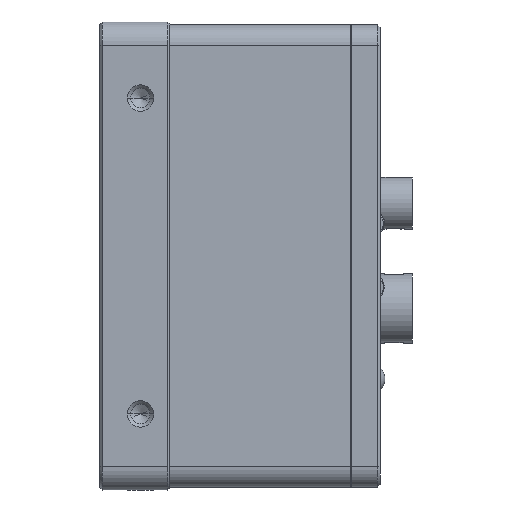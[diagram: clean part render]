
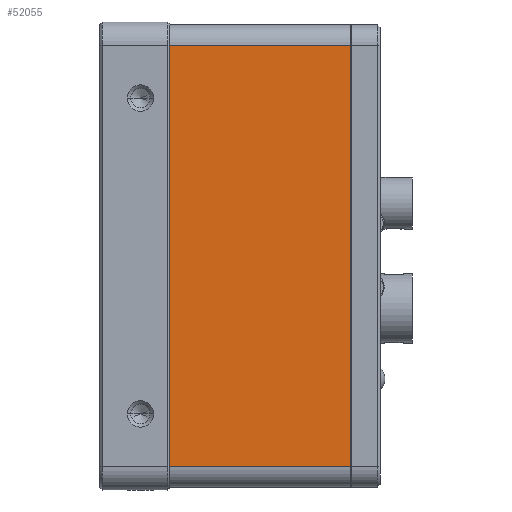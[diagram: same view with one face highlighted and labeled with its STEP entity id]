
A CAD part, left-side view. The second image highlights one B-rep face of the part: STEP entity #52055.
In plain terms, the highlighted planar face has unit normal (-1, 0, 0).
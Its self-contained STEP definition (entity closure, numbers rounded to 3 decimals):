
#3633=DIRECTION('',(0.,0.,-1.));
#3634=VECTOR('',#3633,72.);
#3635=CARTESIAN_POINT('',(-39.5,-12.,36.));
#3636=LINE('',#3635,#3634);
#4430=DIRECTION('',(0.,1.,0.));
#4431=VECTOR('',#4430,30.97);
#4432=CARTESIAN_POINT('',(-39.5,-42.97,36.));
#4433=LINE('',#4432,#4431);
#4437=DIRECTION('',(0.,0.,-1.));
#4438=VECTOR('',#4437,72.);
#4439=CARTESIAN_POINT('',(-39.5,-42.97,36.));
#4440=LINE('',#4439,#4438);
#4444=DIRECTION('',(0.,-1.,0.));
#4445=VECTOR('',#4444,30.97);
#4446=CARTESIAN_POINT('',(-39.5,-12.,-36.));
#4447=LINE('',#4446,#4445);
#42404=CARTESIAN_POINT('',(-39.5,-42.97,36.));
#42405=CARTESIAN_POINT('',(-39.5,-42.97,-36.));
#42406=VERTEX_POINT('',#42404);
#42407=VERTEX_POINT('',#42405);
#42420=CARTESIAN_POINT('',(-39.5,-12.,36.));
#42421=CARTESIAN_POINT('',(-39.5,-12.,-36.));
#42422=VERTEX_POINT('',#42420);
#42423=VERTEX_POINT('',#42421);
#52041=CARTESIAN_POINT('',(-39.5,0.,0.));
#52042=DIRECTION('',(1.,0.,0.));
#52043=DIRECTION('',(0.,-1.,0.));
#52044=AXIS2_PLACEMENT_3D('',#52041,#52042,#52043);
#52045=PLANE('',#52044);
#52046=ORIENTED_EDGE('',*,*,#50842,.F.);
#52048=ORIENTED_EDGE('',*,*,#52047,.F.);
#52050=ORIENTED_EDGE('',*,*,#52049,.T.);
#52052=ORIENTED_EDGE('',*,*,#52051,.F.);
#52053=EDGE_LOOP('',(#52046,#52048,#52050,#52052));
#52054=FACE_OUTER_BOUND('',#52053,.F.);
#52055=ADVANCED_FACE('',(#52054),#52045,.F.);
#50842=EDGE_CURVE('',#42422,#42423,#3636,.T.);
#52047=EDGE_CURVE('',#42406,#42422,#4433,.T.);
#52049=EDGE_CURVE('',#42406,#42407,#4440,.T.);
#52051=EDGE_CURVE('',#42423,#42407,#4447,.T.);
